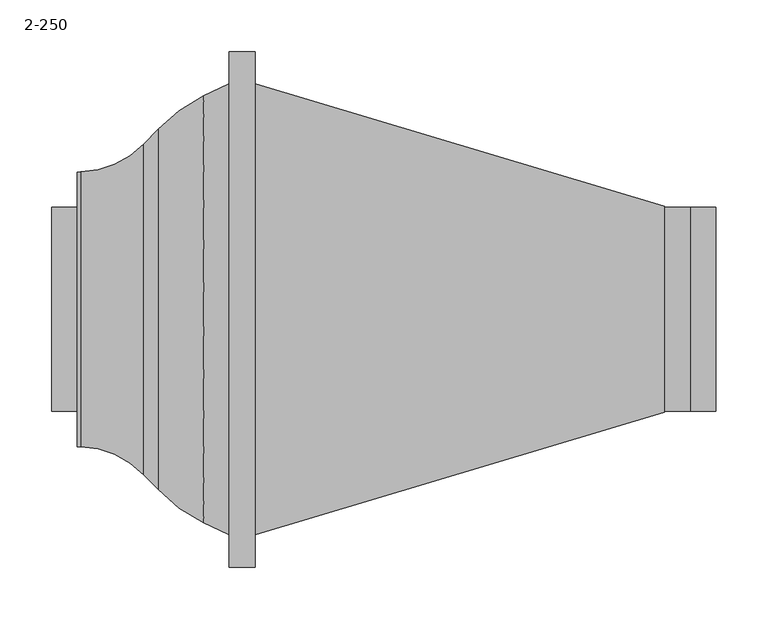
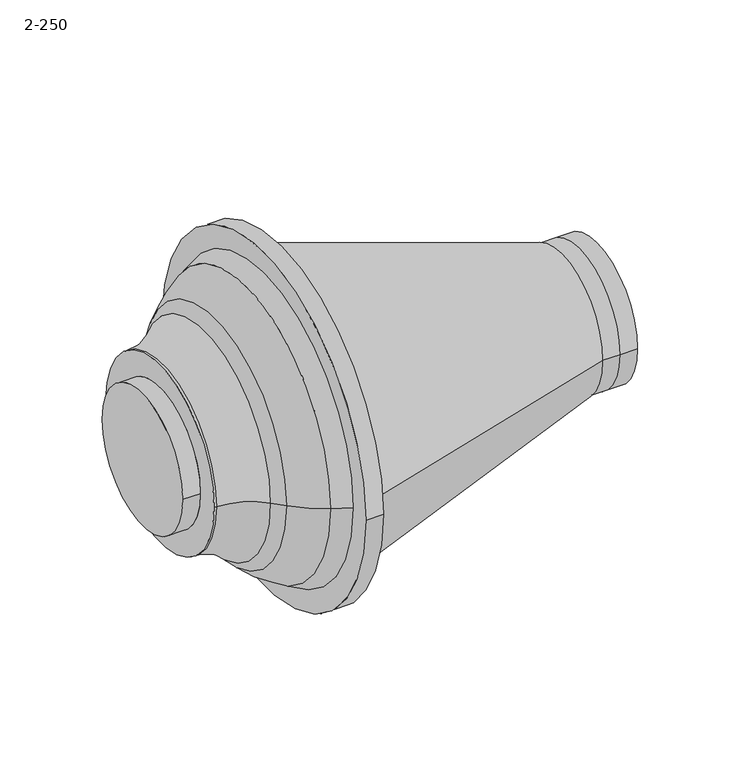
"""IFC4 building model written with IfcOpenShell, lengths in millimetres: unitary equipment geometry, VE-Wentylator-ParaForma-Harmann-VITT_L-Wywiewny : 2-250."""

from ifc_helpers import new_model, si_unit, point, frame, origin, origin_2d, place, context, project, spatial, polyline, circle_curve, ellipse_curve, trimmed, segment, composite_curve, outline, extrude, source, transform, mapped, element, save
from ifc_brep_helpers import plane_surface, cylinder_surface, revolved_surface, advanced_brep


def unitary_equipment_2_250_42f7cbeb(model_context):
    return source(origin(), model_context, "Body", "SolidModel", [
        advanced_brep(
        [(-25.0, -218.9, 0.0), (-25.0, 218.9, 0.0), (-172.5, 133.12, 0.0), (-172.5, -133.12, 0.0), (-172.5, 99.0, 0.0), (-172.5, -99.0, 0.0), (-94.2, -174.7, 0.0), (-108.0, -160.3, 0.0), (-108.0, 160.3, 0.0), (-94.2, 174.7, 0.0), (-49.7, -207.0, 0.0), (-49.7, 207.0, 0.0), (-169.3, -133.2, 0.0), (-169.3, 133.2, 0.0), (-197.5, -99.0, 0.0), (-197.5, 99.0, 0.0)],
        [
            (0, 1, circle_curve(frame((-25.0, 0.0, 0.0), z_axis=(1.0, 0.0, 0.0), x_axis=(0.0, 0.9999999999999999, 0.0)), 218.9)),
            (1, 0, circle_curve(frame((-25.0, 0.0, 0.0), z_axis=(1.0, 0.0, 0.0), x_axis=(0.0, 0.9999999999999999, 0.0)), 218.9)),
            (2, 3, circle_curve(frame((-172.5, 0.0, 0.0), z_axis=(-1.0, 0.0, 0.0), x_axis=(0.0, 0.9999999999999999, 0.0)), 133.12)),
            (3, 2, circle_curve(frame((-172.5, 0.0, 0.0), z_axis=(-1.0, 0.0, 0.0), x_axis=(0.0, 0.9999999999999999, 0.0)), 133.12)),
            (4, 5, circle_curve(frame((-172.5, 0.0, 0.0), z_axis=(1.0, 0.0, 0.0), x_axis=(0.0, 0.9999999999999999, 0.0)), 99.0)),
            (5, 4, circle_curve(frame((-172.5, 0.0, 0.0), z_axis=(1.0, 0.0, 0.0), x_axis=(0.0, 0.9999999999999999, 0.0)), 99.0)),
            (6, 7),
            (7, 8, circle_curve(frame((-108.0, 0.0, 0.0), z_axis=(1.0, 0.0, 0.0), x_axis=(0.0, 0.9999999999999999, 0.0)), 160.3)),
            (8, 9),
            (9, 6, circle_curve(frame((-94.2, 0.0, 0.0), z_axis=(-1.0, 0.0, 0.0), x_axis=(0.0, 0.9999999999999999, 0.0)), 174.7)),
            (6, 9, circle_curve(frame((-94.2, 0.0, 0.0), z_axis=(-1.0, 0.0, 0.0), x_axis=(0.0, 0.9999999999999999, 0.0)), 174.7)),
            (8, 7, circle_curve(frame((-108.0, 0.0, 0.0), z_axis=(1.0, 0.0, 0.0), x_axis=(0.0, 0.9999999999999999, 0.0)), 160.3)),
            (0, 10),
            (10, 11, circle_curve(frame((-49.7, 0.0, 0.0), z_axis=(1.0, 0.0, 0.0), x_axis=(0.0, 0.9999999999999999, 0.0)), 207.0)),
            (11, 1),
            (11, 10, circle_curve(frame((-49.7, 0.0, 0.0), z_axis=(1.0, 0.0, 0.0), x_axis=(0.0, 0.9999999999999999, 0.0)), 207.0)),
            (12, 3),
            (2, 13),
            (13, 12, circle_curve(frame((-169.3, 0.0, 0.0), z_axis=(-1.0, 0.0, 0.0), x_axis=(0.0, 0.9999999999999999, 0.0)), 133.2)),
            (12, 13, circle_curve(frame((-169.3, 0.0, 0.0), z_axis=(-1.0, 0.0, 0.0), x_axis=(0.0, 0.9999999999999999, 0.0)), 133.2)),
            (7, 12, circle_curve(frame((-171.5749499, -221.2259936, 0.0), z_axis=(0.0, 0.0, 1.0000000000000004), x_axis=(0.9999999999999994, 0.0, 0.0)), 88.0553857)),
            (13, 8, circle_curve(frame((-171.5749499, 221.2259936, 0.0), z_axis=(0.0, 0.0, 1.0000000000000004), x_axis=(0.9999999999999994, 0.0, 0.0)), 88.0553857)),
            (9, 11, circle_curve(frame((17.4040603, 67.7461089, 0.0), z_axis=(0.0, 0.0, -1.0000000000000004), x_axis=(0.9999999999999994, 0.0, 0.0)), 154.578786)),
            (10, 6, circle_curve(frame((17.4040603, -67.7461089, 0.0), z_axis=(0.0, 0.0, -1.0000000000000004), x_axis=(0.9999999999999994, 0.0, 0.0)), 154.578786)),
            (14, 15, circle_curve(frame((-197.5, 0.0, 0.0), z_axis=(-1.0, 0.0, 0.0), x_axis=(0.0, 0.9999999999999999, 0.0)), 99.0)),
            (15, 14, circle_curve(frame((-197.5, 0.0, 0.0), z_axis=(-1.0, 0.0, 0.0), x_axis=(0.0, 0.9999999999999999, 0.0)), 99.0)),
            (14, 5),
            (4, 15),
        ],
        [
            plane_surface(frame((-25.0, 0.0, 0.0), z_axis=(1.0, 0.0, 0.0), x_axis=(0.0, 0.0, -1.0))),
            plane_surface(frame((-172.5, 0.0, 0.0), z_axis=(-1.0, 0.0, 0.0), x_axis=(0.0, 0.0, -1.0))),
            revolved_surface(polyline([(-94.2, 174.7, 0.0), (-108.0, 160.3, 0.0)]), (-172.5, 0.0, 0.0), (-0.9999999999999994, 0.0, 0.0)),
            revolved_surface(polyline([(-25.0, 218.9, 0.0), (-49.7, 207.0, 0.0)]), (-172.5, 0.0, 0.0), (-0.9999999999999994, 0.0, 0.0)),
            revolved_surface(polyline([(-169.3, 133.2, 0.0), (-172.5, 133.12, 0.0)]), (-172.5, 0.0, 0.0), (-0.9999999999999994, 0.0, 0.0)),
            revolved_surface(trimmed(ellipse_curve(frame((-171.5749499, 221.2259936, 0.0), z_axis=(0.0, 0.0, -1.0000000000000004), x_axis=(0.9999999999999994, 0.0, 0.0)), 88.0553857, 88.0553857), [point((-108.0, 160.3, 0.0))], [point((-169.3, 133.2, 0.0))], True, "CARTESIAN"), (-172.5, 0.0, 0.0), (-0.9999999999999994, 0.0, 0.0)),
            revolved_surface(trimmed(ellipse_curve(frame((17.4040603, 67.7461089, 0.0), z_axis=(0.0, 0.0, 1.0000000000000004), x_axis=(0.9999999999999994, 0.0, 0.0)), 154.578786, 154.578786), [point((-49.7, 207.0, 0.0))], [point((-94.2, 174.7, 0.0))], True, "CARTESIAN"), (-172.5, 0.0, 0.0), (-0.9999999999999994, 0.0, 0.0)),
            plane_surface(frame((-197.5, 0.0, 0.0), z_axis=(-1.0, 0.0, 0.0), x_axis=(0.0, 0.0, 1.0))),
            cylinder_surface(frame((-197.5, 0.0, 0.0), z_axis=(-0.9999999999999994, 0.0, 0.0), x_axis=(0.0, 0.9999999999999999, 0.0)), 99.0),
        ],
        [
            (0, [[1, 2]]),
            (1, [[3, 4], [5, 6]]),
            (2, [[7, 8, 9, 10]]),
            (2, [[-7, 11, -9, 12]]),
            (3, [[13, 14, 15, -1]]),
            (3, [[-13, -2, -15, 16]]),
            (4, [[17, -3, 18, 19]]),
            (4, [[-17, 20, -18, -4]]),
            (5, [[-8, 21, -19, 22]]),
            (5, [[-12, -22, -20, -21]]),
            (6, [[-10, 23, -14, 24]]),
            (6, [[-11, -24, -16, -23]]),
            (7, [[25, 26]]),
            (8, [[-25, 27, -5, 28]]),
            (8, [[-26, -28, -6, -27]]),
        ],
    ),
        advanced_brep(
        [(397.5, -100.0, 0.0), (397.5, 100.0, 0.0), (397.5, -99.0, 0.0), (397.5, 99.0, 0.0), (0.0, -218.75, 0.0), (0.0, 218.75, 0.0), (422.5, -99.0, 0.0), (422.5, 99.0, 0.0), (447.5, -99.0, 0.0), (447.5, 99.0, 0.0)],
        [
            (0, 1, circle_curve(frame((397.5, 0.0, 0.0), z_axis=(1.0, 0.0, 0.0), x_axis=(0.0, -0.9999999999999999, 0.0)), 100.0)),
            (1, 0, circle_curve(frame((397.5, 0.0, 0.0), z_axis=(1.0, 0.0, 0.0), x_axis=(0.0, 0.9999999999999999, 0.0)), 100.0)),
            (2, 3, circle_curve(frame((397.5, 0.0, 0.0), z_axis=(-1.0, 0.0, 0.0), x_axis=(0.0, 0.9999999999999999, 0.0)), 99.0)),
            (3, 2, circle_curve(frame((397.5, 0.0, 0.0), z_axis=(-1.0, 0.0, 0.0), x_axis=(0.0, 0.9999999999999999, 0.0)), 99.0)),
            (4, 5, circle_curve(frame((0.0, 0.0, 0.0), z_axis=(-1.0, 0.0, 0.0), x_axis=(0.0, 0.9999999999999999, 0.0)), 218.75)),
            (5, 4, circle_curve(frame((0.0, 0.0, 0.0), z_axis=(-1.0, 0.0, 0.0), x_axis=(0.0, -0.9999999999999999, 0.0)), 218.75)),
            (0, 4),
            (5, 1),
            (2, 6),
            (6, 7, circle_curve(frame((422.5, 0.0, 0.0), z_axis=(-1.0, 0.0, 0.0), x_axis=(0.0, 0.9999999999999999, 0.0)), 99.0)),
            (7, 3),
            (7, 6, circle_curve(frame((422.5, 0.0, 0.0), z_axis=(-1.0, 0.0, 0.0), x_axis=(0.0, 0.9999999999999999, 0.0)), 99.0)),
            (8, 9, circle_curve(frame((447.5, 0.0, 0.0), z_axis=(1.0, 0.0, 0.0), x_axis=(0.0, 0.9999999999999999, 0.0)), 99.0)),
            (9, 8, circle_curve(frame((447.5, 0.0, 0.0), z_axis=(1.0, 0.0, 0.0), x_axis=(0.0, 0.9999999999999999, 0.0)), 99.0)),
            (9, 7),
            (6, 8),
        ],
        [
            plane_surface(frame((397.5, 0.0, 0.0), z_axis=(1.0, 0.0, 0.0), x_axis=(0.0, 0.0, -1.0))),
            plane_surface(frame((0.0, 0.0, 0.0), z_axis=(-1.0, 0.0, 0.0), x_axis=(0.0, 0.0, -1.0))),
            revolved_surface(polyline([(397.49999999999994, -99.99999999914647, 0.0), (0.0, -218.75, 0.0)]), (732.2368421, 0.0, 0.0), (-0.9999999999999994, 0.0, 0.0)),
            revolved_surface(polyline([(397.49999999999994, 99.99999999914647, 0.0), (0.0, 218.75, 0.0)]), (732.2368421, 0.0, 0.0), (-0.9999999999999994, 0.0, 0.0)),
            cylinder_surface(frame((397.5, 0.0, 0.0), z_axis=(-0.9999999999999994, 0.0, 0.0), x_axis=(0.0, 0.9999999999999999, 0.0)), 99.0),
            plane_surface(frame((447.5, 0.0, 0.0), z_axis=(1.0, 0.0, 0.0), x_axis=(0.0, 0.0, 1.0))),
        ],
        [
            (0, [[1, 2], [3, 4]]),
            (1, [[5, 6]]),
            (2, [[-1, 7, -6, 8]]),
            (3, [[-2, -8, -5, -7]]),
            (4, [[9, 10, 11, -3]]),
            (4, [[-9, -4, -11, 12]]),
            (5, [[13, 14]]),
            (4, [[-14, 15, -10, 16]]),
            (4, [[-13, -16, -12, -15]]),
        ],
    ),
        extrude(outline(composite_curve([segment(trimmed(circle_curve(origin_2d(), 250.0), [point((-250.0, 0.0))], [point((250.0, 0.0))], False, "CARTESIAN"), True, "CONTINUOUS"), segment(trimmed(circle_curve(origin_2d(), 250.0), [point((250.0, 0.0))], [point((-250.0, 0.0))], False, "CARTESIAN"), True, "CONTINUOUS")], self_intersect=False)), frame((-25.0, 0.0, 0.0), z_axis=(1.0, 0.0, 0.0), x_axis=(0.0, 1.0, 0.0)), (0.0, 0.0, 1.0), 25.0),
    ])


if __name__ == "__main__":
    model = new_model("IFC4")
    model_context = context("Model", 3, world=origin())
    ifc_project = project(units=[si_unit("LENGTHUNIT", "METRE", prefix="MILLI")], contexts=[model_context])
    site = spatial("IfcSite", under=ifc_project)
    building = spatial("IfcBuilding", under=site)
    placement = place(None, origin())
    unitary_equipment_2_250_shape = unitary_equipment_2_250_42f7cbeb(model_context)
    element("IfcUnitaryEquipment", 1, ObjectType="VE-Wentylator-ParaForma-Harmann-VITT_L-Wywiewny : 2-250", at=placement, inside=building, context=model_context, shape_type="MappedRepresentation", body=[
        mapped(unitary_equipment_2_250_shape, transform((0.0, 0.0, 0.0), x_axis=(1.0, 0.0, 0.0), y_axis=(0.0, 1.0, 0.0), z_axis=(0.0, 0.0, 1.0))),
    ])
    save(model, "model.ifc")
